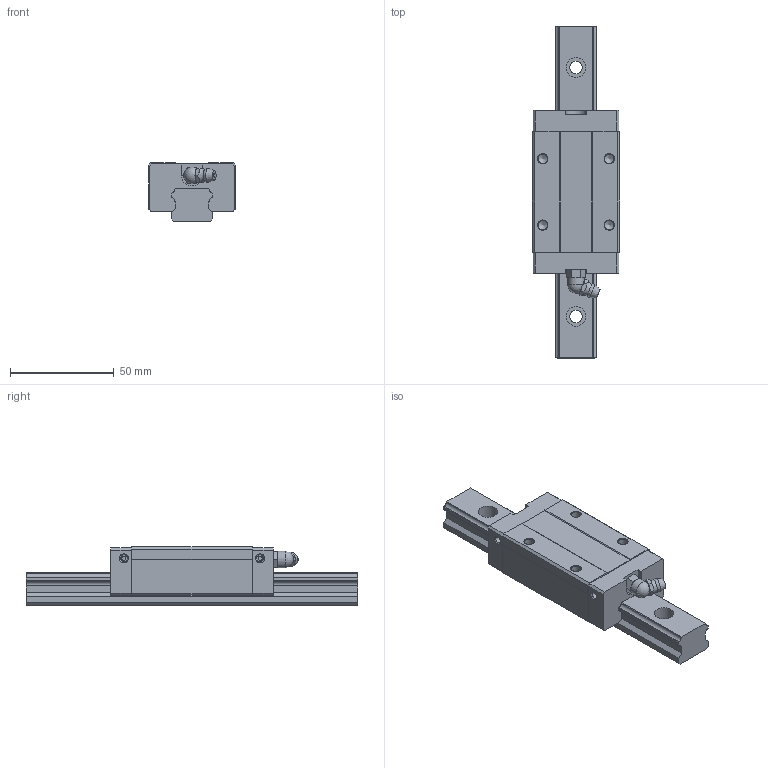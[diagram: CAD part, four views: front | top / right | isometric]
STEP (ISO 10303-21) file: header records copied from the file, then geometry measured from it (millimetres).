
FILE_DESCRIPTION(/* description */ (''),/* implementation_level */ '2;1');
FILE_NAME(/* name */ 'SME20-SB',/* time_stamp */ '2008-10-06T10:19:56+08:00',/* author */ (''),/* organization */ (''),/* preprocessor_version */ 'ST-DEVELOPER v11',/* originating_system */ 'UGS - NX 5.0',/* authorisation */ '');
FILE_SCHEMA (('AUTOMOTIVE_DESIGN { 1 0 10303 214 1 1 1 1 }'));
Length unit declared in the file: millimetre
Products named in the file (1): jillBD1Caljc
Bounding box: 42 x 160 x 28 mm (x, y, z)
Volume: 102985.6 mm3; surface area: 27629.6 mm2
Topology: 3 solids, 3 shells, 164 faces, 425 edges, 280 vertices
Faces by surface type: plane 98, cylinder 43, cone 13, torus 7, sphere 2, bspline 1
Full cylindrical faces by diameter (mm): 2 x4, 3.3 x4, 4.5 x4, 6 x3, 6.5 x2, 8 x1, 9.5 x3
Entity records: 5049 total; most frequent: CARTESIAN_POINT 961, DIRECTION 788, ORIENTED_EDGE 734, EDGE_CURVE 367, AXIS2_PLACEMENT_3D 275, VERTEX_POINT 264, LINE 238, VECTOR 238
